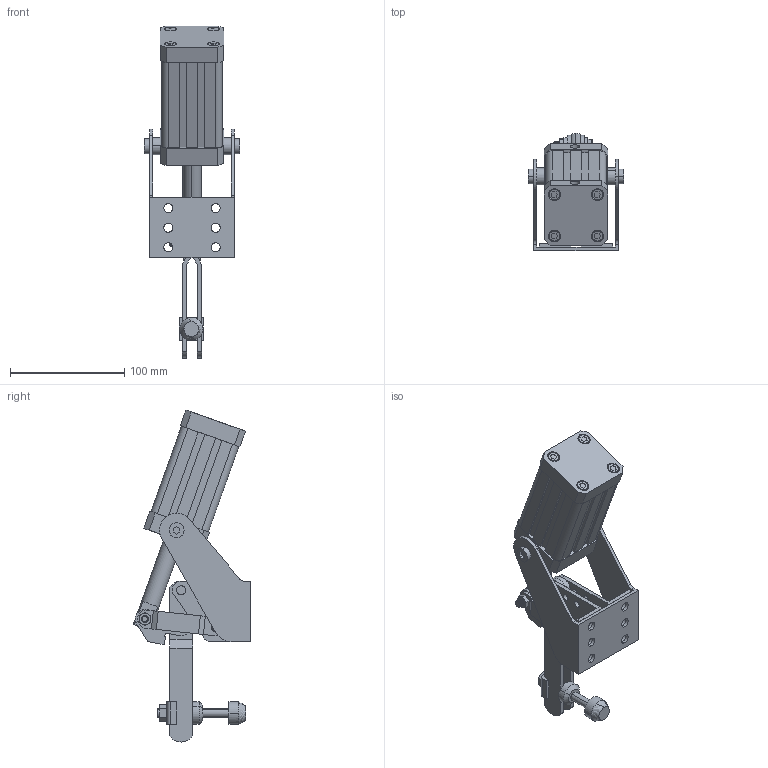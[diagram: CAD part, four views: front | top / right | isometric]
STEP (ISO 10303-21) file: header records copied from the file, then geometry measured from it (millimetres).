
FILE_DESCRIPTION (( 'STEP AP214' ), '1' );
FILE_NAME ('620k-4 Montaj.STEP', '2017-05-03T08:40:07', ( '' ), ( '' ), 'SwSTEP 2.0', 'SolidWorks 2015', '' );
FILE_SCHEMA (( 'AUTOMOTIVE_DESIGN' ));
Length unit declared in the file: millimetre
Products named in the file (19): 620k-4-19 tabla; 620k-4 Montaj; 620k-4-17 Part6; 620k-4-4ayak1; 620k-4-2 ayak1; 620k-4-16 Part1; 620k-4-13 mil; 620k-4-11 lastik; 620k-4-12 civata11; 620k-4-15 ozel somun; 620k-4-21 somun11; 620k-4-22 u papuc11; 620k-4-1 AM-M6-N; 620k-4-5 B18; 620k-4-14 montaj percini; 620k-4-9 baskillamasi; 620k-4-8 tirnak; 620k-4-6 lama; 620k-4-3 halka
Assembly tree (26 placements, depth 2):
  620k-4 Montaj
    620k-4-19 tabla
    620k-4-3 halka  x3
    620k-4-6 lama  x2
    620k-4-8 tirnak  x2
    620k-4-9 baskillamasi  x2
    620k-4-14 montaj percini  x2
    620k-4-5 B18  x2
    620k-4-1 AM-M6-N  x2
    620k-4-22 u papuc11
    620k-4-21 somun11
    620k-4-15 ozel somun
    620k-4-12 civata11
    620k-4-11 lastik
    620k-4-13 mil
    620k-4-16 Part1
    620k-4-2 ayak1
    620k-4-4ayak1
    620k-4-17 Part6
Bounding box: 83.5 x 103 x 291.17 mm (x, y, z)
Volume: 435928.8 mm3; surface area: 127109 mm2
Topology: 26 solids, 26 shells, 854 faces, 2183 edges, 1436 vertices
Faces by surface type: plane 440, cylinder 319, bspline 61, cone 34
Entity records: 29037 total; most frequent: CARTESIAN_POINT 10872, ORIENTED_EDGE 3436, DIRECTION 3122, EDGE_CURVE 1718, VERTEX_POINT 1136, VECTOR 1122, LINE 1122, AXIS2_PLACEMENT_3D 1000
